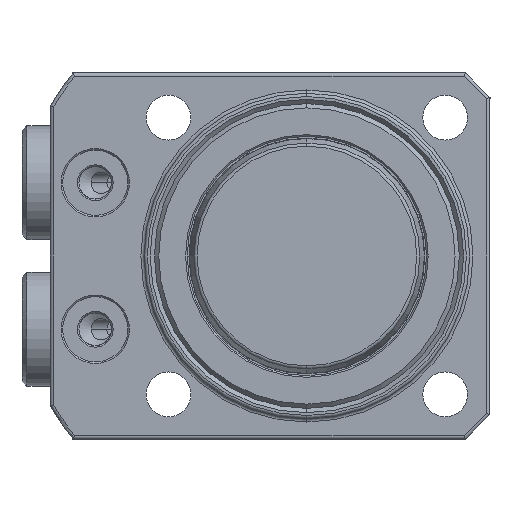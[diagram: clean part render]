
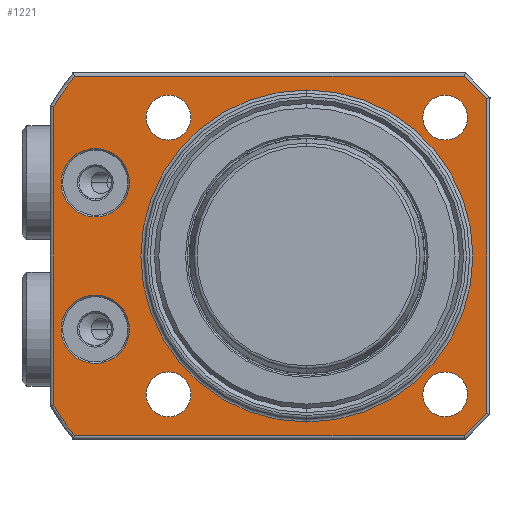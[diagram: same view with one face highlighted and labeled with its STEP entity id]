
A CAD part, front view. The second image highlights one B-rep face of the part: STEP entity #1221.
In plain terms, the highlighted planar face has unit normal (0, -1, 0) as drawn and (1, 0, 0) by its records, which use the part's own axes.
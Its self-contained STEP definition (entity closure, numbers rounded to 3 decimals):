
#976=PLANE('',#4661);
#1040=FACE_BOUND('',#1712,.T.);
#1041=FACE_BOUND('',#1713,.T.);
#1042=FACE_BOUND('',#1714,.T.);
#1043=FACE_BOUND('',#1715,.T.);
#1044=FACE_BOUND('',#1716,.T.);
#1045=FACE_BOUND('',#1717,.T.);
#1046=FACE_BOUND('',#1718,.T.);
#1047=FACE_BOUND('',#1719,.T.);
#1221=ADVANCED_FACE('',(#1040,#1041,#1042,#1043,#1044,#1045,#1046,#1047),
#976,.F.);
#1712=EDGE_LOOP('',(#2629,#2630));
#1713=EDGE_LOOP('',(#2631,#2632));
#1714=EDGE_LOOP('',(#2633,#2634,#2635,#2636,#2637,#2638,#2639,#2640));
#1715=EDGE_LOOP('',(#2641,#2642));
#1716=EDGE_LOOP('',(#2643,#2644));
#1717=EDGE_LOOP('',(#2645,#2646));
#1718=EDGE_LOOP('',(#2647,#2648));
#1719=EDGE_LOOP('',(#2649,#2650));
#1987=LINE('',#6994,#2188);
#1988=LINE('',#6997,#2189);
#1989=LINE('',#6999,#2190);
#1990=LINE('',#7003,#2191);
#1991=LINE('',#7007,#2192);
#1992=LINE('',#7009,#2193);
#2188=VECTOR('',#5400,1.);
#2189=VECTOR('',#5401,1.);
#2190=VECTOR('',#5402,1.);
#2191=VECTOR('',#5405,1.);
#2192=VECTOR('',#5408,1.);
#2193=VECTOR('',#5409,1.);
#2629=ORIENTED_EDGE('',*,*,#3786,.T.);
#2630=ORIENTED_EDGE('',*,*,#3945,.T.);
#2631=ORIENTED_EDGE('',*,*,#3781,.T.);
#2632=ORIENTED_EDGE('',*,*,#3946,.T.);
#2633=ORIENTED_EDGE('',*,*,#3947,.T.);
#2634=ORIENTED_EDGE('',*,*,#3948,.T.);
#2635=ORIENTED_EDGE('',*,*,#3949,.T.);
#2636=ORIENTED_EDGE('',*,*,#3950,.T.);
#2637=ORIENTED_EDGE('',*,*,#3951,.T.);
#2638=ORIENTED_EDGE('',*,*,#3952,.T.);
#2639=ORIENTED_EDGE('',*,*,#3953,.T.);
#2640=ORIENTED_EDGE('',*,*,#3954,.T.);
#2641=ORIENTED_EDGE('',*,*,#3955,.T.);
#2642=ORIENTED_EDGE('',*,*,#3803,.T.);
#2643=ORIENTED_EDGE('',*,*,#3956,.T.);
#2644=ORIENTED_EDGE('',*,*,#3892,.T.);
#2645=ORIENTED_EDGE('',*,*,#3957,.T.);
#2646=ORIENTED_EDGE('',*,*,#3900,.T.);
#2647=ORIENTED_EDGE('',*,*,#3958,.T.);
#2648=ORIENTED_EDGE('',*,*,#3908,.T.);
#2649=ORIENTED_EDGE('',*,*,#3959,.T.);
#2650=ORIENTED_EDGE('',*,*,#3916,.T.);
#3416=VERTEX_POINT('',#6449);
#3417=VERTEX_POINT('',#6451);
#3421=VERTEX_POINT('',#6460);
#3422=VERTEX_POINT('',#6462);
#3438=VERTEX_POINT('',#6499);
#3439=VERTEX_POINT('',#6500);
#3508=VERTEX_POINT('',#6821);
#3509=VERTEX_POINT('',#6822);
#3516=VERTEX_POINT('',#6848);
#3517=VERTEX_POINT('',#6849);
#3524=VERTEX_POINT('',#6875);
#3525=VERTEX_POINT('',#6876);
#3532=VERTEX_POINT('',#6902);
#3533=VERTEX_POINT('',#6903);
#3548=VERTEX_POINT('',#6995);
#3549=VERTEX_POINT('',#6996);
#3550=VERTEX_POINT('',#6998);
#3551=VERTEX_POINT('',#7000);
#3552=VERTEX_POINT('',#7002);
#3553=VERTEX_POINT('',#7004);
#3554=VERTEX_POINT('',#7006);
#3555=VERTEX_POINT('',#7008);
#3781=EDGE_CURVE('',#3417,#3416,#4266,.T.);
#3786=EDGE_CURVE('',#3422,#3421,#4269,.T.);
#3803=EDGE_CURVE('',#3438,#3439,#4281,.T.);
#3892=EDGE_CURVE('',#3508,#3509,#4321,.T.);
#3900=EDGE_CURVE('',#3516,#3517,#4324,.T.);
#3908=EDGE_CURVE('',#3524,#3525,#4327,.T.);
#3916=EDGE_CURVE('',#3532,#3533,#4330,.T.);
#3945=EDGE_CURVE('',#3421,#3422,#4342,.T.);
#3946=EDGE_CURVE('',#3416,#3417,#4343,.T.);
#3947=EDGE_CURVE('',#3548,#3549,#1987,.T.);
#3948=EDGE_CURVE('',#3549,#3550,#1988,.T.);
#3949=EDGE_CURVE('',#3550,#3551,#1989,.T.);
#3950=EDGE_CURVE('',#3551,#3552,#4344,.T.);
#3951=EDGE_CURVE('',#3552,#3553,#1990,.T.);
#3952=EDGE_CURVE('',#3553,#3554,#4345,.T.);
#3953=EDGE_CURVE('',#3554,#3555,#1991,.T.);
#3954=EDGE_CURVE('',#3555,#3548,#1992,.T.);
#3955=EDGE_CURVE('',#3439,#3438,#4346,.T.);
#3956=EDGE_CURVE('',#3509,#3508,#4347,.T.);
#3957=EDGE_CURVE('',#3517,#3516,#4348,.T.);
#3958=EDGE_CURVE('',#3525,#3524,#4349,.T.);
#3959=EDGE_CURVE('',#3533,#3532,#4350,.T.);
#4266=CIRCLE('',#4536,4.2);
#4269=CIRCLE('',#4540,4.2);
#4281=CIRCLE('',#4556,20.4);
#4321=CIRCLE('',#4618,2.75);
#4324=CIRCLE('',#4623,2.75);
#4327=CIRCLE('',#4628,2.75);
#4330=CIRCLE('',#4633,2.75);
#4342=CIRCLE('',#4652,4.2);
#4343=CIRCLE('',#4653,4.2);
#4344=CIRCLE('',#4654,36.1);
#4345=CIRCLE('',#4655,36.1);
#4346=CIRCLE('',#4656,20.4);
#4347=CIRCLE('',#4657,2.75);
#4348=CIRCLE('',#4658,2.75);
#4349=CIRCLE('',#4659,2.75);
#4350=CIRCLE('',#4660,2.75);
#4536=AXIS2_PLACEMENT_3D('',#6450,#5098,#5099);
#4540=AXIS2_PLACEMENT_3D('',#6461,#5108,#5109);
#4556=AXIS2_PLACEMENT_3D('',#6498,#5145,#5146);
#4618=AXIS2_PLACEMENT_3D('',#6820,#5307,#5308);
#4623=AXIS2_PLACEMENT_3D('',#6847,#5321,#5322);
#4628=AXIS2_PLACEMENT_3D('',#6874,#5335,#5336);
#4633=AXIS2_PLACEMENT_3D('',#6901,#5349,#5350);
#4652=AXIS2_PLACEMENT_3D('',#6992,#5396,#5397);
#4653=AXIS2_PLACEMENT_3D('',#6993,#5398,#5399);
#4654=AXIS2_PLACEMENT_3D('',#7001,#5403,#5404);
#4655=AXIS2_PLACEMENT_3D('',#7005,#5406,#5407);
#4656=AXIS2_PLACEMENT_3D('',#7010,#5410,#5411);
#4657=AXIS2_PLACEMENT_3D('',#7011,#5412,#5413);
#4658=AXIS2_PLACEMENT_3D('',#7012,#5414,#5415);
#4659=AXIS2_PLACEMENT_3D('',#7013,#5416,#5417);
#4660=AXIS2_PLACEMENT_3D('',#7014,#5418,#5419);
#4661=AXIS2_PLACEMENT_3D('',#7015,#5420,#5421);
#5098=DIRECTION('',(-1.,0.,0.));
#5099=DIRECTION('',(0.,0.,1.));
#5108=DIRECTION('',(-1.,0.,0.));
#5109=DIRECTION('',(0.,0.,1.));
#5145=DIRECTION('',(-1.,0.,0.));
#5146=DIRECTION('',(0.,0.,1.));
#5307=DIRECTION('',(-1.,0.,0.));
#5308=DIRECTION('',(0.,0.,1.));
#5321=DIRECTION('',(-1.,0.,0.));
#5322=DIRECTION('',(0.,0.,1.));
#5335=DIRECTION('',(-1.,0.,0.));
#5336=DIRECTION('',(0.,0.,1.));
#5349=DIRECTION('',(-1.,0.,0.));
#5350=DIRECTION('',(0.,0.,1.));
#5396=DIRECTION('',(-1.,0.,0.));
#5397=DIRECTION('',(0.,0.,1.));
#5398=DIRECTION('',(-1.,0.,0.));
#5399=DIRECTION('',(0.,0.,1.));
#5400=DIRECTION('',(0.,0.,1.));
#5401=DIRECTION('',(0.,-0.707,0.707));
#5402=DIRECTION('',(0.,-1.,0.));
#5403=DIRECTION('',(1.,0.,0.));
#5404=DIRECTION('',(0.,0.,1.));
#5405=DIRECTION('',(0.,0.,-1.));
#5406=DIRECTION('',(1.,0.,0.));
#5407=DIRECTION('',(0.,0.,1.));
#5408=DIRECTION('',(0.,1.,0.));
#5409=DIRECTION('',(0.,0.707,0.707));
#5410=DIRECTION('',(-1.,0.,0.));
#5411=DIRECTION('',(0.,0.,1.));
#5412=DIRECTION('',(-1.,0.,0.));
#5413=DIRECTION('',(0.,0.,1.));
#5414=DIRECTION('',(-1.,0.,0.));
#5415=DIRECTION('',(0.,0.,1.));
#5416=DIRECTION('',(-1.,0.,0.));
#5417=DIRECTION('',(0.,0.,1.));
#5418=DIRECTION('',(-1.,0.,0.));
#5419=DIRECTION('',(0.,0.,1.));
#5420=DIRECTION('',(-1.,0.,0.));
#5421=DIRECTION('',(0.,0.,-1.));
#6449=CARTESIAN_POINT('',(0.,-26.,13.2));
#6450=CARTESIAN_POINT('',(0.,-26.,9.));
#6451=CARTESIAN_POINT('',(0.,-26.,4.8));
#6460=CARTESIAN_POINT('',(0.,-26.,-4.8));
#6461=CARTESIAN_POINT('',(0.,-26.,-9.));
#6462=CARTESIAN_POINT('',(0.,-26.,-13.2));
#6498=CARTESIAN_POINT('',(0.,0.,0.));
#6499=CARTESIAN_POINT('',(0.,0.,-20.4));
#6500=CARTESIAN_POINT('',(0.,0.,20.4));
#6820=CARTESIAN_POINT('',(0.,17.,-17.));
#6821=CARTESIAN_POINT('',(0.,17.,-19.75));
#6822=CARTESIAN_POINT('',(0.,17.,-14.25));
#6847=CARTESIAN_POINT('',(0.,17.,17.));
#6848=CARTESIAN_POINT('',(0.,17.,14.25));
#6849=CARTESIAN_POINT('',(0.,17.,19.75));
#6874=CARTESIAN_POINT('',(0.,-17.,17.));
#6875=CARTESIAN_POINT('',(0.,-17.,14.25));
#6876=CARTESIAN_POINT('',(0.,-17.,19.75));
#6901=CARTESIAN_POINT('',(0.,-17.,-17.));
#6902=CARTESIAN_POINT('',(0.,-17.,-19.75));
#6903=CARTESIAN_POINT('',(0.,-17.,-14.25));
#6992=CARTESIAN_POINT('',(0.,-26.,-9.));
#6993=CARTESIAN_POINT('',(0.,-26.,9.));
#6994=CARTESIAN_POINT('',(0.,22.1,19.5));
#6995=CARTESIAN_POINT('',(0.,22.1,-19.334));
#6996=CARTESIAN_POINT('',(0.,22.1,19.334));
#6997=CARTESIAN_POINT('',(0.,19.217,22.217));
#6998=CARTESIAN_POINT('',(0.,19.334,22.1));
#6999=CARTESIAN_POINT('',(0.,-28.74,22.1));
#7000=CARTESIAN_POINT('',(0.,-28.545,22.1));
#7001=CARTESIAN_POINT('',(0.,0.,0.));
#7002=CARTESIAN_POINT('',(0.,-31.1,18.33));
#7003=CARTESIAN_POINT('',(0.,-31.1,-18.439));
#7004=CARTESIAN_POINT('',(0.,-31.1,-18.33));
#7005=CARTESIAN_POINT('',(0.,0.,0.));
#7006=CARTESIAN_POINT('',(0.,-28.545,-22.1));
#7007=CARTESIAN_POINT('',(0.,19.5,-22.1));
#7008=CARTESIAN_POINT('',(0.,19.334,-22.1));
#7009=CARTESIAN_POINT('',(0.,22.217,-19.217));
#7010=CARTESIAN_POINT('',(0.,0.,0.));
#7011=CARTESIAN_POINT('',(0.,17.,-17.));
#7012=CARTESIAN_POINT('',(0.,17.,17.));
#7013=CARTESIAN_POINT('',(0.,-17.,17.));
#7014=CARTESIAN_POINT('',(0.,-17.,-17.));
#7015=CARTESIAN_POINT('',(0.,0.,0.));
